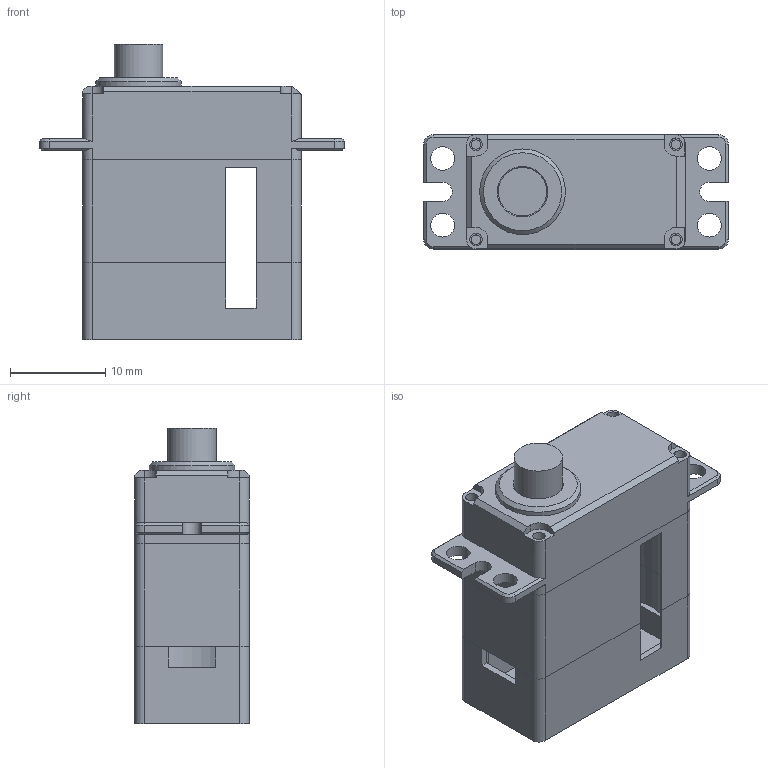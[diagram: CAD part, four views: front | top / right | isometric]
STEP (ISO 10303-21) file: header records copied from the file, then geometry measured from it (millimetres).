
FILE_DESCRIPTION(/* description */ (''),/* implementation_level */ '2;1');
FILE_NAME(/* name */ 'MS325',/* time_stamp */ '2018-04-08T09:19:50+08:00',/* author */ (''),/* organization */ (''),/* preprocessor_version */ 'ST-DEVELOPER v9',/* originating_system */ 'UGS - NX 4.0',/* authorisation */ '');
FILE_SCHEMA (('CONFIG_CONTROL_DESIGN'));
Length unit declared in the file: millimetre
Products named in the file (1): Admi25E1udpb
Bounding box: 32 x 12 x 31 mm (x, y, z)
Volume: 2350.3 mm3; surface area: 5621.6 mm2
Topology: 4 solids, 4 shells, 329 faces, 888 edges, 579 vertices
Faces by surface type: plane 151, cylinder 137, cone 41
Full cylindrical faces by diameter (mm): 1 x4, 1.3 x8, 2.5 x4, 3.5 x1, 4.42 x1, 4.99 x1, 5.1 x2, 6.4 x1, 7.99 x1, 9 x1
Entity records: 10330 total; most frequent: CARTESIAN_POINT 1881, DIRECTION 1820, ORIENTED_EDGE 1684, EDGE_CURVE 842, AXIS2_PLACEMENT_3D 672, VERTEX_POINT 561, LINE 476, VECTOR 476
